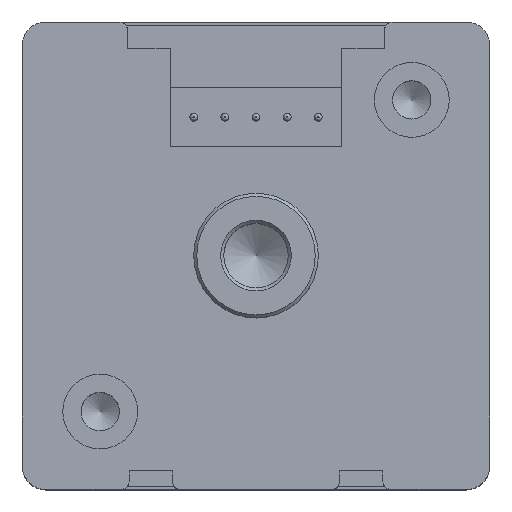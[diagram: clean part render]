
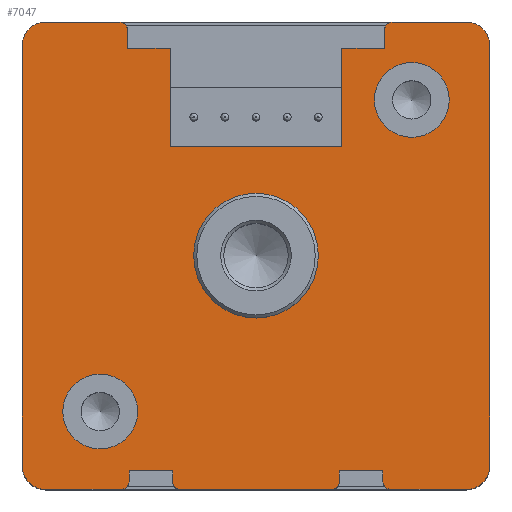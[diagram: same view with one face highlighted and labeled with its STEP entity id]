
A CAD part, top view. The second image highlights one B-rep face of the part: STEP entity #7047.
In plain terms, the highlighted planar face has unit normal (0, 0, 1).
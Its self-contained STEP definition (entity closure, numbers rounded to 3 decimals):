
#83=LINE('',#10209,#919);
#86=LINE('',#10215,#922);
#87=LINE('',#10217,#923);
#88=LINE('',#10219,#924);
#89=LINE('',#10221,#925);
#90=LINE('',#10223,#926);
#91=LINE('',#10225,#927);
#92=LINE('',#10227,#928);
#93=LINE('',#10231,#929);
#94=LINE('',#10235,#930);
#95=LINE('',#10239,#931);
#96=LINE('',#10243,#932);
#97=LINE('',#10245,#933);
#98=LINE('',#10247,#934);
#99=LINE('',#10251,#935);
#100=LINE('',#10255,#936);
#101=LINE('',#10257,#937);
#102=LINE('',#10259,#938);
#103=LINE('',#10263,#939);
#104=LINE('',#10267,#940);
#919=VECTOR('',#8127,10.);
#922=VECTOR('',#8132,10.);
#923=VECTOR('',#8133,10.);
#924=VECTOR('',#8134,10.);
#925=VECTOR('',#8135,10.);
#926=VECTOR('',#8136,10.);
#927=VECTOR('',#8137,10.);
#928=VECTOR('',#8138,10.);
#929=VECTOR('',#8141,10.);
#930=VECTOR('',#8144,10.);
#931=VECTOR('',#8147,10.);
#932=VECTOR('',#8150,10.);
#933=VECTOR('',#8151,10.);
#934=VECTOR('',#8152,10.);
#935=VECTOR('',#8155,10.);
#936=VECTOR('',#8158,10.);
#937=VECTOR('',#8159,10.);
#938=VECTOR('',#8160,10.);
#939=VECTOR('',#8163,10.);
#940=VECTOR('',#8166,10.);
#1836=PLANE('',#7489);
#2140=FACE_BOUND('',#2625,.T.);
#2141=FACE_BOUND('',#2626,.T.);
#2142=FACE_BOUND('',#2627,.T.);
#2200=FACE_OUTER_BOUND('',#2624,.T.);
#2624=EDGE_LOOP('',(#5027,#5028,#5029,#5030,#5031,#5032,#5033,#5034,#5035,
#5036,#5037,#5038,#5039,#5040,#5041,#5042,#5043,#5044,#5045,#5046,#5047,
#5048,#5049,#5050,#5051,#5052,#5053,#5054,#5055,#5056));
#2625=EDGE_LOOP('',(#5057));
#2626=EDGE_LOOP('',(#5058));
#2627=EDGE_LOOP('',(#5059));
#3026=CIRCLE('',#7429,4.);
#3028=CIRCLE('',#7433,2.4);
#3031=CIRCLE('',#7438,2.4);
#3060=CIRCLE('',#7485,0.5);
#3063=CIRCLE('',#7490,0.5);
#3064=CIRCLE('',#7491,1.5);
#3065=CIRCLE('',#7492,1.5);
#3066=CIRCLE('',#7493,0.5);
#3067=CIRCLE('',#7494,0.5);
#3068=CIRCLE('',#7495,0.5);
#3069=CIRCLE('',#7496,0.5);
#3070=CIRCLE('',#7497,1.5);
#3071=CIRCLE('',#7498,1.5);
#3199=VERTEX_POINT('',#9944);
#3201=VERTEX_POINT('',#9950);
#3204=VERTEX_POINT('',#9958);
#3239=VERTEX_POINT('',#10197);
#3240=VERTEX_POINT('',#10198);
#3244=VERTEX_POINT('',#10208);
#3246=VERTEX_POINT('',#10214);
#3247=VERTEX_POINT('',#10216);
#3248=VERTEX_POINT('',#10218);
#3249=VERTEX_POINT('',#10220);
#3250=VERTEX_POINT('',#10222);
#3251=VERTEX_POINT('',#10224);
#3252=VERTEX_POINT('',#10226);
#3253=VERTEX_POINT('',#10228);
#3254=VERTEX_POINT('',#10230);
#3255=VERTEX_POINT('',#10232);
#3256=VERTEX_POINT('',#10234);
#3257=VERTEX_POINT('',#10236);
#3258=VERTEX_POINT('',#10238);
#3259=VERTEX_POINT('',#10240);
#3260=VERTEX_POINT('',#10242);
#3261=VERTEX_POINT('',#10244);
#3262=VERTEX_POINT('',#10246);
#3263=VERTEX_POINT('',#10248);
#3264=VERTEX_POINT('',#10250);
#3265=VERTEX_POINT('',#10252);
#3266=VERTEX_POINT('',#10254);
#3267=VERTEX_POINT('',#10256);
#3268=VERTEX_POINT('',#10258);
#3269=VERTEX_POINT('',#10260);
#3270=VERTEX_POINT('',#10262);
#3271=VERTEX_POINT('',#10264);
#3272=VERTEX_POINT('',#10266);
#3888=EDGE_CURVE('',#3199,#3199,#3026,.T.);
#3890=EDGE_CURVE('',#3201,#3201,#3028,.T.);
#3893=EDGE_CURVE('',#3204,#3204,#3031,.T.);
#3934=EDGE_CURVE('',#3239,#3240,#3060,.T.);
#3939=EDGE_CURVE('',#3244,#3240,#83,.T.);
#3942=EDGE_CURVE('',#3239,#3246,#86,.T.);
#3943=EDGE_CURVE('',#3246,#3247,#87,.T.);
#3944=EDGE_CURVE('',#3247,#3248,#88,.T.);
#3945=EDGE_CURVE('',#3248,#3249,#89,.T.);
#3946=EDGE_CURVE('',#3249,#3250,#90,.T.);
#3947=EDGE_CURVE('',#3250,#3251,#91,.T.);
#3948=EDGE_CURVE('',#3251,#3252,#92,.T.);
#3949=EDGE_CURVE('',#3253,#3252,#3063,.T.);
#3950=EDGE_CURVE('',#3253,#3254,#93,.T.);
#3951=EDGE_CURVE('',#3255,#3254,#3064,.T.);
#3952=EDGE_CURVE('',#3255,#3256,#94,.T.);
#3953=EDGE_CURVE('',#3257,#3256,#3065,.T.);
#3954=EDGE_CURVE('',#3257,#3258,#95,.T.);
#3955=EDGE_CURVE('',#3259,#3258,#3066,.T.);
#3956=EDGE_CURVE('',#3259,#3260,#96,.T.);
#3957=EDGE_CURVE('',#3260,#3261,#97,.T.);
#3958=EDGE_CURVE('',#3261,#3262,#98,.T.);
#3959=EDGE_CURVE('',#3263,#3262,#3067,.T.);
#3960=EDGE_CURVE('',#3263,#3264,#99,.T.);
#3961=EDGE_CURVE('',#3265,#3264,#3068,.T.);
#3962=EDGE_CURVE('',#3265,#3266,#100,.T.);
#3963=EDGE_CURVE('',#3266,#3267,#101,.T.);
#3964=EDGE_CURVE('',#3267,#3268,#102,.T.);
#3965=EDGE_CURVE('',#3269,#3268,#3069,.T.);
#3966=EDGE_CURVE('',#3269,#3270,#103,.T.);
#3967=EDGE_CURVE('',#3271,#3270,#3070,.T.);
#3968=EDGE_CURVE('',#3271,#3272,#104,.T.);
#3969=EDGE_CURVE('',#3244,#3272,#3071,.T.);
#5027=ORIENTED_EDGE('',*,*,#3934,.F.);
#5028=ORIENTED_EDGE('',*,*,#3942,.T.);
#5029=ORIENTED_EDGE('',*,*,#3943,.T.);
#5030=ORIENTED_EDGE('',*,*,#3944,.T.);
#5031=ORIENTED_EDGE('',*,*,#3945,.T.);
#5032=ORIENTED_EDGE('',*,*,#3946,.T.);
#5033=ORIENTED_EDGE('',*,*,#3947,.T.);
#5034=ORIENTED_EDGE('',*,*,#3948,.T.);
#5035=ORIENTED_EDGE('',*,*,#3949,.F.);
#5036=ORIENTED_EDGE('',*,*,#3950,.T.);
#5037=ORIENTED_EDGE('',*,*,#3951,.F.);
#5038=ORIENTED_EDGE('',*,*,#3952,.T.);
#5039=ORIENTED_EDGE('',*,*,#3953,.F.);
#5040=ORIENTED_EDGE('',*,*,#3954,.T.);
#5041=ORIENTED_EDGE('',*,*,#3955,.F.);
#5042=ORIENTED_EDGE('',*,*,#3956,.T.);
#5043=ORIENTED_EDGE('',*,*,#3957,.T.);
#5044=ORIENTED_EDGE('',*,*,#3958,.T.);
#5045=ORIENTED_EDGE('',*,*,#3959,.F.);
#5046=ORIENTED_EDGE('',*,*,#3960,.T.);
#5047=ORIENTED_EDGE('',*,*,#3961,.F.);
#5048=ORIENTED_EDGE('',*,*,#3962,.T.);
#5049=ORIENTED_EDGE('',*,*,#3963,.T.);
#5050=ORIENTED_EDGE('',*,*,#3964,.T.);
#5051=ORIENTED_EDGE('',*,*,#3965,.F.);
#5052=ORIENTED_EDGE('',*,*,#3966,.T.);
#5053=ORIENTED_EDGE('',*,*,#3967,.F.);
#5054=ORIENTED_EDGE('',*,*,#3968,.T.);
#5055=ORIENTED_EDGE('',*,*,#3969,.F.);
#5056=ORIENTED_EDGE('',*,*,#3939,.T.);
#5057=ORIENTED_EDGE('',*,*,#3888,.T.);
#5058=ORIENTED_EDGE('',*,*,#3890,.T.);
#5059=ORIENTED_EDGE('',*,*,#3893,.T.);
#7047=ADVANCED_FACE('',(#2200,#2140,#2141,#2142),#1836,.T.);
#7429=AXIS2_PLACEMENT_3D('',#9945,#7998,#7999);
#7433=AXIS2_PLACEMENT_3D('',#9951,#8006,#8007);
#7438=AXIS2_PLACEMENT_3D('',#9959,#8016,#8017);
#7485=AXIS2_PLACEMENT_3D('',#10199,#8117,#8118);
#7489=AXIS2_PLACEMENT_3D('',#10213,#8130,#8131);
#7490=AXIS2_PLACEMENT_3D('',#10229,#8139,#8140);
#7491=AXIS2_PLACEMENT_3D('',#10233,#8142,#8143);
#7492=AXIS2_PLACEMENT_3D('',#10237,#8145,#8146);
#7493=AXIS2_PLACEMENT_3D('',#10241,#8148,#8149);
#7494=AXIS2_PLACEMENT_3D('',#10249,#8153,#8154);
#7495=AXIS2_PLACEMENT_3D('',#10253,#8156,#8157);
#7496=AXIS2_PLACEMENT_3D('',#10261,#8161,#8162);
#7497=AXIS2_PLACEMENT_3D('',#10265,#8164,#8165);
#7498=AXIS2_PLACEMENT_3D('',#10268,#8167,#8168);
#7998=DIRECTION('center_axis',(0.,0.,-1.));
#7999=DIRECTION('ref_axis',(-1.,0.,0.));
#8006=DIRECTION('center_axis',(0.,0.,-1.));
#8007=DIRECTION('ref_axis',(-1.,0.,0.));
#8016=DIRECTION('center_axis',(0.,0.,-1.));
#8017=DIRECTION('ref_axis',(-1.,0.,0.));
#8117=DIRECTION('center_axis',(0.,0.,-1.));
#8118=DIRECTION('ref_axis',(-0.707,0.707,0.));
#8127=DIRECTION('',(-1.,0.,0.));
#8130=DIRECTION('center_axis',(0.,0.,1.));
#8131=DIRECTION('ref_axis',(1.,0.,0.));
#8132=DIRECTION('',(0.,-1.,0.));
#8133=DIRECTION('',(-1.,0.,0.));
#8134=DIRECTION('',(0.,-1.,0.));
#8135=DIRECTION('',(-1.,0.,0.));
#8136=DIRECTION('',(0.,1.,0.));
#8137=DIRECTION('',(-1.,0.,0.));
#8138=DIRECTION('',(0.,1.,0.));
#8139=DIRECTION('center_axis',(0.,0.,-1.));
#8140=DIRECTION('ref_axis',(0.707,0.707,0.));
#8141=DIRECTION('',(-1.,0.,0.));
#8142=DIRECTION('center_axis',(0.,0.,-1.));
#8143=DIRECTION('ref_axis',(-0.707,0.707,0.));
#8144=DIRECTION('',(0.,-1.,0.));
#8145=DIRECTION('center_axis',(0.,0.,-1.));
#8146=DIRECTION('ref_axis',(-0.707,-0.707,0.));
#8147=DIRECTION('',(1.,0.,0.));
#8148=DIRECTION('center_axis',(0.,0.,-1.));
#8149=DIRECTION('ref_axis',(0.707,-0.707,0.));
#8150=DIRECTION('',(0.,1.,0.));
#8151=DIRECTION('',(1.,0.,0.));
#8152=DIRECTION('',(0.,-1.,0.));
#8153=DIRECTION('center_axis',(0.,0.,-1.));
#8154=DIRECTION('ref_axis',(-0.707,-0.707,0.));
#8155=DIRECTION('',(1.,0.,0.));
#8156=DIRECTION('center_axis',(0.,0.,-1.));
#8157=DIRECTION('ref_axis',(0.707,-0.707,0.));
#8158=DIRECTION('',(0.,1.,0.));
#8159=DIRECTION('',(1.,0.,0.));
#8160=DIRECTION('',(0.,-1.,0.));
#8161=DIRECTION('center_axis',(0.,0.,-1.));
#8162=DIRECTION('ref_axis',(-0.707,-0.707,0.));
#8163=DIRECTION('',(1.,0.,0.));
#8164=DIRECTION('center_axis',(0.,0.,-1.));
#8165=DIRECTION('ref_axis',(0.707,-0.707,0.));
#8166=DIRECTION('',(0.,1.,0.));
#8167=DIRECTION('center_axis',(0.,0.,-1.));
#8168=DIRECTION('ref_axis',(0.707,0.707,0.));
#9944=CARTESIAN_POINT('',(4.,0.,21.5));
#9945=CARTESIAN_POINT('Origin',(0.,0.,21.5));
#9950=CARTESIAN_POINT('',(12.4,10.,21.5));
#9951=CARTESIAN_POINT('Origin',(10.,10.,21.5));
#9958=CARTESIAN_POINT('',(-7.6,-10.,21.5));
#9959=CARTESIAN_POINT('Origin',(-10.,-10.,21.5));
#10197=CARTESIAN_POINT('',(8.25,14.5,21.5));
#10198=CARTESIAN_POINT('',(8.75,15.,21.5));
#10199=CARTESIAN_POINT('Origin',(8.75,14.5,21.5));
#10208=CARTESIAN_POINT('',(13.5,15.,21.5));
#10209=CARTESIAN_POINT('',(-15.,15.,21.5));
#10213=CARTESIAN_POINT('Origin',(0.,0.,21.5));
#10214=CARTESIAN_POINT('',(8.25,13.3,21.5));
#10215=CARTESIAN_POINT('',(8.25,7.5,21.5));
#10216=CARTESIAN_POINT('',(5.5,13.3,21.5));
#10217=CARTESIAN_POINT('',(4.125,13.3,21.5));
#10218=CARTESIAN_POINT('',(5.5,7.,21.5));
#10219=CARTESIAN_POINT('',(5.5,6.65,21.5));
#10220=CARTESIAN_POINT('',(-5.5,7.,21.5));
#10221=CARTESIAN_POINT('',(2.75,7.,21.5));
#10222=CARTESIAN_POINT('',(-5.5,13.3,21.5));
#10223=CARTESIAN_POINT('',(-5.5,3.5,21.5));
#10224=CARTESIAN_POINT('',(-8.25,13.3,21.5));
#10225=CARTESIAN_POINT('',(-2.75,13.3,21.5));
#10226=CARTESIAN_POINT('',(-8.25,14.5,21.5));
#10227=CARTESIAN_POINT('',(-8.25,6.65,21.5));
#10228=CARTESIAN_POINT('',(-8.75,15.,21.5));
#10229=CARTESIAN_POINT('Origin',(-8.75,14.5,21.5));
#10230=CARTESIAN_POINT('',(-13.5,15.,21.5));
#10231=CARTESIAN_POINT('',(-15.,15.,21.5));
#10232=CARTESIAN_POINT('',(-15.,13.5,21.5));
#10233=CARTESIAN_POINT('Origin',(-13.5,13.5,21.5));
#10234=CARTESIAN_POINT('',(-15.,-13.5,21.5));
#10235=CARTESIAN_POINT('',(-15.,-15.,21.5));
#10236=CARTESIAN_POINT('',(-13.5,-15.,21.5));
#10237=CARTESIAN_POINT('Origin',(-13.5,-13.5,21.5));
#10238=CARTESIAN_POINT('',(-8.65,-15.,21.5));
#10239=CARTESIAN_POINT('',(15.,-15.,21.5));
#10240=CARTESIAN_POINT('',(-8.15,-14.5,21.5));
#10241=CARTESIAN_POINT('Origin',(-8.65,-14.5,21.5));
#10242=CARTESIAN_POINT('',(-8.15,-13.8,21.5));
#10243=CARTESIAN_POINT('',(-8.15,-7.5,21.5));
#10244=CARTESIAN_POINT('',(-5.35,-13.8,21.5));
#10245=CARTESIAN_POINT('',(-4.075,-13.8,21.5));
#10246=CARTESIAN_POINT('',(-5.35,-14.5,21.5));
#10247=CARTESIAN_POINT('',(-5.35,-6.9,21.5));
#10248=CARTESIAN_POINT('',(-4.85,-15.,21.5));
#10249=CARTESIAN_POINT('Origin',(-4.85,-14.5,21.5));
#10250=CARTESIAN_POINT('',(4.85,-15.,21.5));
#10251=CARTESIAN_POINT('',(15.,-15.,21.5));
#10252=CARTESIAN_POINT('',(5.35,-14.5,21.5));
#10253=CARTESIAN_POINT('Origin',(4.85,-14.5,21.5));
#10254=CARTESIAN_POINT('',(5.35,-13.8,21.5));
#10255=CARTESIAN_POINT('',(5.35,-7.5,21.5));
#10256=CARTESIAN_POINT('',(8.15,-13.8,21.5));
#10257=CARTESIAN_POINT('',(2.675,-13.8,21.5));
#10258=CARTESIAN_POINT('',(8.15,-14.5,21.5));
#10259=CARTESIAN_POINT('',(8.15,-6.9,21.5));
#10260=CARTESIAN_POINT('',(8.65,-15.,21.5));
#10261=CARTESIAN_POINT('Origin',(8.65,-14.5,21.5));
#10262=CARTESIAN_POINT('',(13.5,-15.,21.5));
#10263=CARTESIAN_POINT('',(15.,-15.,21.5));
#10264=CARTESIAN_POINT('',(15.,-13.5,21.5));
#10265=CARTESIAN_POINT('Origin',(13.5,-13.5,21.5));
#10266=CARTESIAN_POINT('',(15.,13.5,21.5));
#10267=CARTESIAN_POINT('',(15.,15.,21.5));
#10268=CARTESIAN_POINT('Origin',(13.5,13.5,21.5));
